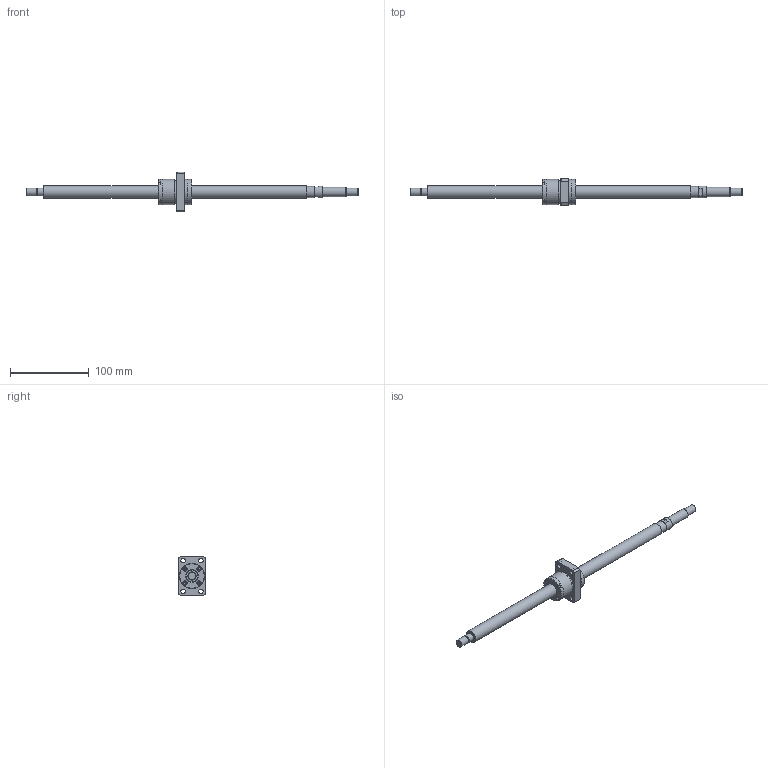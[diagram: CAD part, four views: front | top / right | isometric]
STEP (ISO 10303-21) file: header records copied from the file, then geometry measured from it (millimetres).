
FILE_DESCRIPTION(/* description */ ('STEP AP203'),/* implementation_level */ '2;1');
FILE_NAME(/* name */ 'BNK1616-3.6G0+421LC5Y(1880)',/* time_stamp */ '2024-07-09T09:29:15+02:00',/* author */ ('License CC BY-ND 4.0'),/* organization */ ('CADENAS'),/* preprocessor_version */ 'ST-DEVELOPER v19.3',/* originating_system */ 'PARTsolutions',/* authorisation */ ' ');
FILE_SCHEMA (('CONFIG_CONTROL_DESIGN'));
Length unit declared in the file: millimetre
Products named in the file (3): BNK1616-3.6G0+421LC5Y(1880); BNK 1616-3.6G0+421LC5Y Shaft; BNK 1616-3.6G0+421LC5Y0 Nut
Assembly tree (2 placements, depth 2):
  BNK1616-3.6G0+421LC5Y(1880)
    BNK 1616-3.6G0+421LC5Y Shaft
    BNK 1616-3.6G0+421LC5Y0 Nut
Bounding box: 421 x 34 x 50 mm (x, y, z)
Volume: 107972.5 mm3; surface area: 31777.4 mm2
Topology: 2 solids, 2 shells, 136 faces, 312 edges, 202 vertices
Faces by surface type: plane 75, cylinder 35, cone 20, torus 6
Full cylindrical faces by diameter (mm): 5.188 x1, 5.5 x8, 9.5 x4, 9.6 x1, 10 x3, 12 x1, 14 x1, 15 x1, 16 x2, 28.8 x1, 31.8 x2, 32 x2
Entity records: 3705 total; most frequent: CARTESIAN_POINT 676, DIRECTION 626, ORIENTED_EDGE 530, EDGE_CURVE 265, AXIS2_PLACEMENT_3D 247, FACE_BOUND 210, EDGE_LOOP 209, VERTEX_POINT 197
